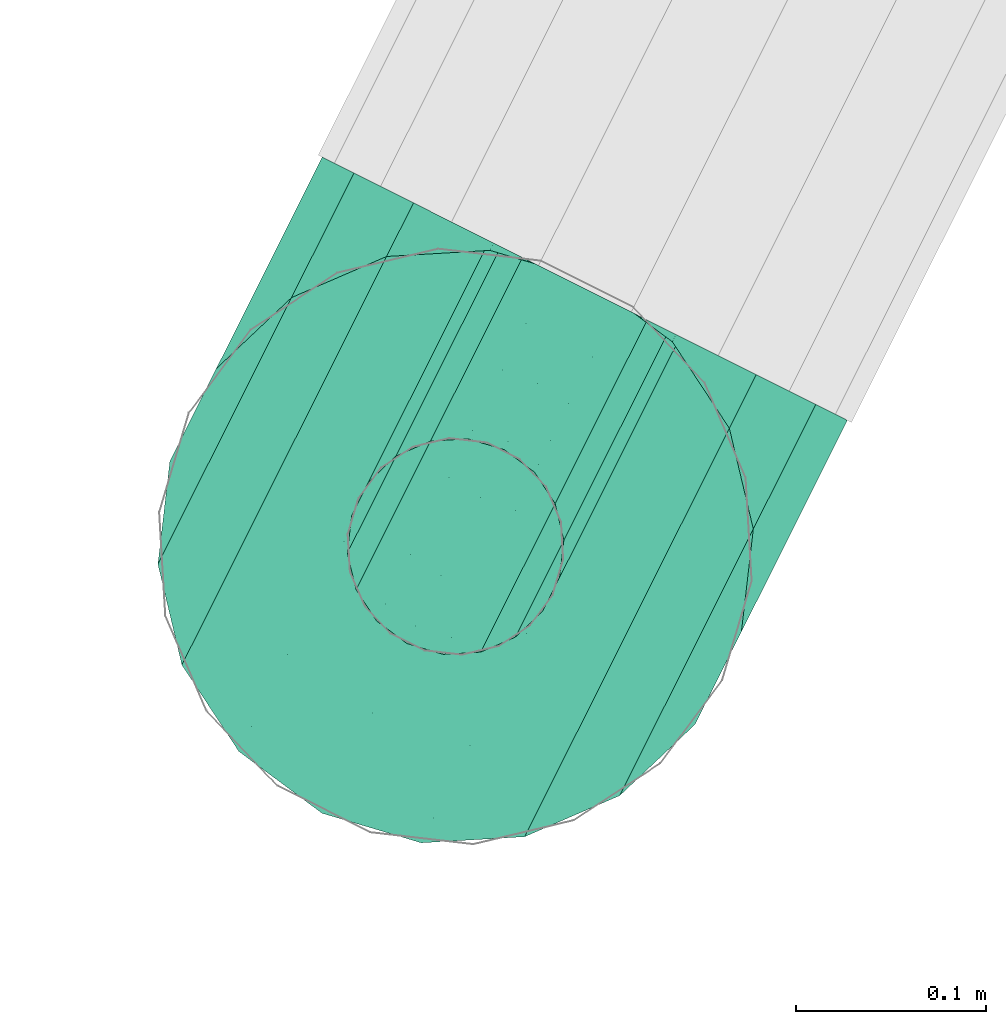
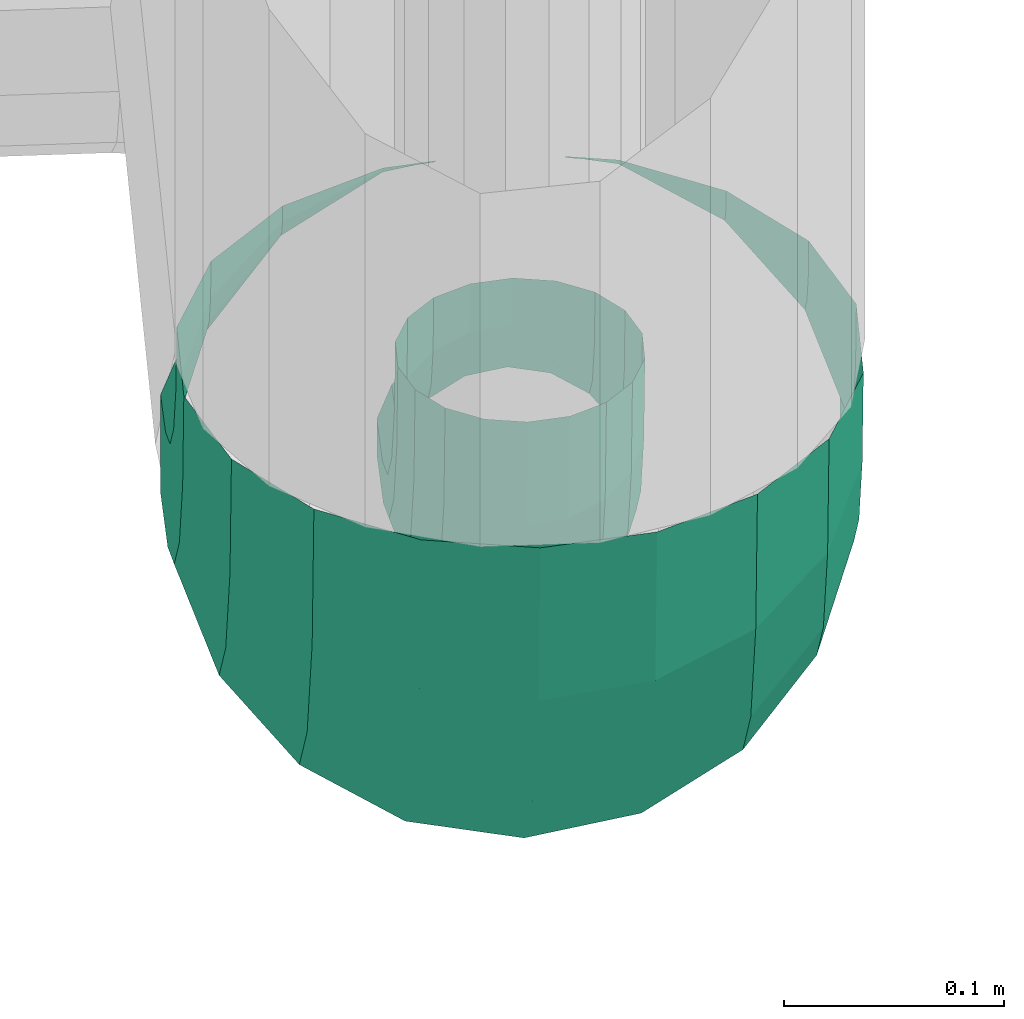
# One storey, part 35 of 206: 1 flow segment.
"""IFC2X3 building model written with IfcOpenShell, lengths in metres."""

import ifcopenshell
import ifcopenshell.guid

model = None  # the IFC model being written
_history = None  # IfcOwnerHistory: only IFC2X3 demands one
_inside = {}  # id of a spatial element -> (the spatial element, [elements in it])
_under = {}  # id of a project, library or spatial element -> (it, [spatial elements below it])
_declared = {}  # id of a project -> (the project, [libraries it declares])
_typed = {}  # id of a type object -> (the type object, [elements of that type])
_made_of = {}  # id of a material, layer set ... -> (it, [elements and type objects made of it])


def new_model(schema):
    """Start an empty IFC model of exactly this schema.

    Asked for "IFC4X3", IfcOpenShell would pick the latest addendum, in which some entities
    have other attributes; the version numbers below select the first issue.
    IFC2X3 requires an IfcOwnerHistory on every rooted entity: one is made here for all.
    """
    global model, _history
    if schema == "IFC4X3":
        model = ifcopenshell.file(schema_version=(4, 3, 0, 0))
    else:
        model = ifcopenshell.file(schema=schema)
    _inside.clear()
    _under.clear()
    _declared.clear()
    _typed.clear()
    _made_of.clear()
    _history = None
    if model.schema == "IFC2X3":
        org = make("IfcOrganization", Name="unknown")
        user = make(
            "IfcPersonAndOrganization",
            ThePerson=make("IfcPerson", FamilyName="unknown"),
            TheOrganization=org,
        )
        app = make(
            "IfcApplication",
            ApplicationDeveloper=org,
            Version="unknown",
            ApplicationFullName="unknown",
            ApplicationIdentifier="unknown",
        )
        _history = make(
            "IfcOwnerHistory",
            OwningUser=user,
            OwningApplication=app,
            ChangeAction="ADDED",
            CreationDate=0,
        )
    return model


def make(cls, **values):
    """One entity of the class cls with the attributes given. An attribute that is None is left unset."""
    return model.create_entity(
        cls, **{name: value for name, value in values.items() if value is not None}
    )


def rooted(cls, **values):
    """An entity with a GlobalId (a new one), such as an element, a storey or a relation."""
    return make(cls, GlobalId=ifcopenshell.guid.new(), OwnerHistory=_history, **values)


def si_unit(unit_type, name, prefix=None):
    """IfcSIUnit, for example si_unit("LENGTHUNIT", "METRE", prefix="MILLI")."""
    return make("IfcSIUnit", UnitType=unit_type, Prefix=prefix, Name=name)


def derived_unit(unit_type, elements):
    """IfcDerivedUnit: a product of units, each with its exponent."""
    return make(
        "IfcDerivedUnit",
        Elements=[
            make("IfcDerivedUnitElement", Unit=unit, Exponent=power)
            for unit, power in elements
        ],
        UnitType=unit_type,
    )


def assignment(units):
    """IfcUnitAssignment: the units of a project."""
    return None if units is None else make("IfcUnitAssignment", Units=units)


def point(xyz):
    """IfcCartesianPoint."""
    return None if xyz is None else make("IfcCartesianPoint", Coordinates=xyz)


def direction(xyz):
    """IfcDirection."""
    return None if xyz is None else make("IfcDirection", DirectionRatios=xyz)


def frame(location, z_axis=None, x_axis=None):
    """IfcAxis2Placement3D, a coordinate frame: its origin and axes. An axis left out is left unset."""
    return make(
        "IfcAxis2Placement3D",
        Location=point(location),
        Axis=direction(z_axis),
        RefDirection=direction(x_axis),
    )


def origin():
    """The frame at (0, 0, 0) with its axes left unset."""
    return frame((0.0, 0.0, 0.0))


def place(relative_to, where):
    """IfcLocalPlacement: puts the frame where relative to a parent placement (None: the world)."""
    return make(
        "IfcLocalPlacement", PlacementRelTo=relative_to, RelativePlacement=where
    )


def context(
    kind, dimensions, precision=None, world=None, true_north=None, identifier=None
):
    """IfcGeometricRepresentationContext, for example the 3D "Model" context."""
    return make(
        "IfcGeometricRepresentationContext",
        ContextIdentifier=identifier,
        ContextType=kind,
        CoordinateSpaceDimension=dimensions,
        Precision=precision,
        WorldCoordinateSystem=world,
        TrueNorth=true_north,
    )


def subcontext(parent, identifier, kind, view, scale=None):
    """IfcGeometricRepresentationSubContext, for example "Body" below "Model"."""
    return make(
        "IfcGeometricRepresentationSubContext",
        ContextIdentifier=identifier,
        ContextType=kind,
        ParentContext=parent,
        TargetScale=scale,
        TargetView=view,
    )


def project(units=None, contexts=None):
    """IfcProject with its units and contexts."""
    return rooted(
        "IfcProject",
        Name="project",
        RepresentationContexts=contexts,
        UnitsInContext=assignment(units),
    )


def spatial(cls, under=None, at=None, **own):
    """A site, building, storey or space (cls), placed at a placement, below another one or the project."""
    s = rooted(cls, ObjectPlacement=at, **own)
    if under is not None:
        _under.setdefault(under.id(), (under, []))[1].append(s)
    return s


def faces_of(points, faces, orient=None, outer=None):
    """IfcFace entities. A face is a list of loops; a loop is a list of indices into points, from 0.

    orient and outer hold one flag for each loop. By default every Orientation is true, the
    first loop of a face is its IfcFaceOuterBound and the others are IfcFaceBound.
    """
    made = []
    for i, loops in enumerate(faces):
        bounds = []
        for j, loop in enumerate(loops):
            is_outer = j == 0 if outer is None else outer[i][j]
            bounds.append(
                make(
                    "IfcFaceOuterBound" if is_outer else "IfcFaceBound",
                    Bound=make("IfcPolyLoop", Polygon=[points[k] for k in loop]),
                    Orientation=True if orient is None else orient[i][j],
                )
            )
        made.append(make("IfcFace", Bounds=bounds))
    return made


def face_set(faces, orient=None, outer=None):
    """The faces of one IfcConnectedFaceSet. surface_model builds it on its shared points."""
    return ("IfcConnectedFaceSet", faces, orient, outer)


def surface_model(cls, points, shells):
    """IfcFaceBasedSurfaceModel or IfcShellBasedSurfaceModel (cls): surfaces that need not close."""
    shared = [point(p) for p in points]
    made = [make(c, CfsFaces=faces_of(shared, fs, o, b)) for c, fs, o, b in shells]
    if cls == "IfcFaceBasedSurfaceModel":
        return make(cls, FbsmFaces=made)
    return make(cls, SbsmBoundary=made)


def shape(context_of_items, identifier, shape_type, items):
    """IfcShapeRepresentation: the items that make up one representation, for example the "Body"."""
    return make(
        "IfcShapeRepresentation",
        ContextOfItems=context_of_items,
        RepresentationIdentifier=identifier,
        RepresentationType=shape_type,
        Items=items,
    )


def source(mapping_origin, context_of_items, identifier, shape_type, items):
    """IfcRepresentationMap: a shape defined once, which mapped items show again and again."""
    return make(
        "IfcRepresentationMap",
        MappingOrigin=mapping_origin,
        MappedRepresentation=shape(context_of_items, identifier, shape_type, items),
    )


def transform(
    local_origin,
    x_axis=None,
    y_axis=None,
    z_axis=None,
    scale=None,
    scale2=None,
    scale3=None,
    uniform=True,
):
    """IfcCartesianTransformationOperator3D, or its non-uniform kind. x_axis, y_axis, z_axis: its Axis1, 2, 3."""
    if uniform:
        return make(
            "IfcCartesianTransformationOperator3D",
            Axis1=direction(x_axis),
            Axis2=direction(y_axis),
            LocalOrigin=point(local_origin),
            Scale=scale,
            Axis3=direction(z_axis),
        )
    return make(
        "IfcCartesianTransformationOperator3DnonUniform",
        Axis1=direction(x_axis),
        Axis2=direction(y_axis),
        LocalOrigin=point(local_origin),
        Scale=scale,
        Axis3=direction(z_axis),
        Scale2=scale2,
        Scale3=scale3,
    )


def mapped(mapping_source, mapping_target):
    """IfcMappedItem: shows the shape of a source again, moved by a transform."""
    return make(
        "IfcMappedItem", MappingSource=mapping_source, MappingTarget=mapping_target
    )


def material(Name=None, Category=None):
    """IfcMaterial."""
    return make("IfcMaterial", Name=Name, Category=Category)


def made_of(thing, what):
    """Note that an element or type object is made of a material, layer set ...; save() writes the relation."""
    if what is not None:
        _made_of.setdefault(what.id(), (what, []))[1].append(thing)
    return thing


def type_object(cls, material=None, **own):
    """A type object (cls), such as IfcWallType, which elements share."""
    return made_of(rooted(cls, **own), material)


def type_shapes(of_type, sources):
    """Give a type object the sources (RepresentationMaps) that its elements show as mapped items."""
    of_type.RepresentationMaps = sources


def element(
    cls,
    number,
    at=None,
    inside=None,
    cuts=None,
    type_object=None,
    material=None,
    context=None,
    identifier="Body",
    shape_type=None,
    held_by="IfcProductDefinitionShape",
    body=None,
    shapes=None,
    **own,
):
    """One element of the class cls, such as IfcWall. Its Tag is "e" and its number.

    at: its placement. inside: the storey or other place that contains it. cuts: it is an
    opening in that element (IfcRelVoidsElement). A single representation is given by context,
    identifier, shape_type and body (its items); several are given by shapes. held_by: the class
    of the entity that holds the representations. save() writes the other relations.
    """
    e = rooted(cls, Tag="e%d" % number, ObjectPlacement=at, **own)
    if body is not None:
        shapes = [shape(context, identifier, shape_type, body)]
    if shapes is not None:
        e.Representation = make(held_by, Representations=shapes)
    if inside is not None:
        _inside.setdefault(inside.id(), (inside, []))[1].append(e)
    if cuts is not None:
        rooted(
            "IfcRelVoidsElement", RelatingBuildingElement=cuts, RelatedOpeningElement=e
        )
    if type_object is not None:
        _typed.setdefault(type_object.id(), (type_object, []))[1].append(e)
    return made_of(e, material)


def aggregate(whole, parts):
    """IfcRelAggregates: a whole, such as a stair, and the parts it consists of."""
    return rooted("IfcRelAggregates", RelatingObject=whole, RelatedObjects=parts)


def save(model, path):
    """Write the relations noted so far, then the file.

    IfcRelAggregates (storeys below a building ...), IfcRelContainedInSpatialStructure (elements
    in a storey), IfcRelDefinesByType, IfcRelAssociatesMaterial and IfcRelDeclares: one each for
    every whole, place, type object, material and project.
    """
    for whole, parts in _under.values():
        aggregate(whole, parts)
    for where, things in _inside.values():
        rooted(
            "IfcRelContainedInSpatialStructure",
            RelatedElements=things,
            RelatingStructure=where,
        )
    for kind, things in _typed.values():
        rooted("IfcRelDefinesByType", RelatedObjects=things, RelatingType=kind)
    for what, things in _made_of.values():
        rooted("IfcRelAssociatesMaterial", RelatedObjects=things, RelatingMaterial=what)
    for by, libraries in _declared.values():
        rooted("IfcRelDeclares", RelatingContext=by, RelatedDefinitions=libraries)
    model.write(path)


model = new_model("IFC2X3")

# Units and contexts
model_context = context("Model", 3, precision=5.2338327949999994e-05, world=origin(), true_north=direction((0.0, 1.0)))
body_context = subcontext(model_context, "Body", "Model", "MODEL_VIEW")
ifc_project = project(units=[si_unit("LENGTHUNIT", "METRE"), si_unit("AREAUNIT", "SQUARE_METRE"), si_unit("VOLUMEUNIT", "CUBIC_METRE"), si_unit("MASSUNIT", "GRAM", prefix="KILO"), si_unit("PLANEANGLEUNIT", "RADIAN"), derived_unit("THERMALTRANSMITTANCEUNIT", [(si_unit("MASSUNIT", "GRAM", prefix="KILO"), 1), (si_unit("THERMODYNAMICTEMPERATUREUNIT", "KELVIN"), -1), (si_unit("TIMEUNIT", "SECOND"), -3)])], contexts=[model_context])

# Site, building, storey
site_placement = place(None, frame((0.0, 0.0, 0.0), z_axis=(0.0, 0.0, 1.0), x_axis=(0.8939966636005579, -0.4480736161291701, 0.0)))
site = spatial("IfcSite", under=ifc_project, at=site_placement, Name="Default", CompositionType="ELEMENT")
building_placement = place(site_placement, origin())
building = spatial("IfcBuilding", under=site, at=building_placement, CompositionType="ELEMENT")
storey_placement = place(building_placement, origin())
storey = spatial("IfcBuildingStorey", under=building, at=storey_placement, Name="Erdgeschoss", CompositionType="ELEMENT", Elevation=0.0)

# Flow segment
ifc_material = material(Name="IfcSurfaceStyle #1741")
distribution_element_type = type_object("IfcDistributionElementType", Name="Rohrbogen 292612:Rohrbogen 292612", material=ifc_material)
shared_shape = source(origin(), body_context, "Body", "SurfaceModel", [
    surface_model("IfcFaceBasedSurfaceModel", [(17.62623225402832, 7.3090056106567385, 2.4051674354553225), (17.62623225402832, 7.2987690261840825, 2.4697983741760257), (17.606685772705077, 7.312283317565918, 2.4062324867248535), (17.606685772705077, 7.302215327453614, 2.4697983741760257), (17.62623225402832, 7.338713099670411, 2.3468631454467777), (17.606685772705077, 7.3415013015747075, 2.3488890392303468), (17.62623225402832, 7.384983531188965, 2.300592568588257), (17.606685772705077, 7.3870095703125, 2.303380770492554), (17.62623225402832, 7.443288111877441, 2.270884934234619), (17.606685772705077, 7.444353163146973, 2.274162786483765), (17.62623225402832, 7.507919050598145, 2.260648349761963), (17.606685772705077, 7.507919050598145, 2.264094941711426), (17.589497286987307, 7.321721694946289, 2.409299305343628), (17.589497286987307, 7.312139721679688, 2.4697983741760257), (17.589497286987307, 7.349529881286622, 2.354722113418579), (17.589497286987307, 7.392842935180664, 2.3114094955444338), (17.589497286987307, 7.447419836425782, 2.283601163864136), (17.589497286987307, 7.507919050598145, 2.2740188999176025), (17.576738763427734, 7.336181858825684, 2.4139977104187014), (17.576738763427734, 7.3273440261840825, 2.4697983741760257), (17.576738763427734, 7.36183087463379, 2.36365906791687), (17.576738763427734, 7.401779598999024, 2.32371019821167), (17.576738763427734, 7.45211838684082, 2.2980613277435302), (17.576738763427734, 7.507919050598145, 2.289223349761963), (17.569950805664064, 7.345995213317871, 2.4697983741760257), (17.569950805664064, 7.353920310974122, 2.4197611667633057), (17.569950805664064, 7.376919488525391, 2.3746219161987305), (17.569950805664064, 7.412742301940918, 2.338799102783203), (17.569950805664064, 7.457881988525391, 2.3157994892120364), (17.569950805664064, 7.507919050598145, 2.3078743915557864), (17.569950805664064, 7.372796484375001, 2.425894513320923), (17.569950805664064, 7.365842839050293, 2.4697983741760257), (17.569950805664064, 7.392977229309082, 2.386288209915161), (17.569950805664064, 7.424409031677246, 2.354856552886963), (17.569950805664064, 7.464015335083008, 2.3346760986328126), (17.569950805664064, 7.507919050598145, 2.327722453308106), (17.576738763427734, 7.390534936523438, 2.4316579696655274), (17.576738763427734, 7.384494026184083, 2.4697983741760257), (17.576738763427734, 7.408065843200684, 2.3972510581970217), (17.576738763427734, 7.435371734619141, 2.3699454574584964), (17.576738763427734, 7.4697783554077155, 2.3524142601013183), (17.576738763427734, 7.507919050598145, 2.346373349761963), (17.589497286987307, 7.404995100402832, 2.4363563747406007), (17.589497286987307, 7.399698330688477, 2.4697983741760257), (17.589497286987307, 7.420366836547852, 2.4061880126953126), (17.589497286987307, 7.4443083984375, 2.3822461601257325), (17.589497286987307, 7.474476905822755, 2.3668745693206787), (17.589497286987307, 7.507919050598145, 2.3615777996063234), (17.606685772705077, 7.414433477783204, 2.4394231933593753), (17.606685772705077, 7.409622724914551, 2.4697983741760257), (17.606685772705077, 7.428395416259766, 2.412021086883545), (17.606685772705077, 7.450141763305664, 2.3902748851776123), (17.606685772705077, 7.477543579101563, 2.376312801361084), (17.606685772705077, 7.507919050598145, 2.371501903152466), (17.62623225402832, 7.413069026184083, 2.4697983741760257), (17.62623225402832, 7.417711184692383, 2.4404882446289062), (17.62623225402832, 7.431183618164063, 2.4140469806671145), (17.62623225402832, 7.4521678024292, 2.3930630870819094), (17.62623225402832, 7.478608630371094, 2.37959065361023), (17.62623225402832, 7.507919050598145, 2.3749483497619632), (17.645778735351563, 7.414433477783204, 2.4394231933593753), (17.645778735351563, 7.409622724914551, 2.4697983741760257), (17.645778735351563, 7.428395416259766, 2.412021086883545), (17.645778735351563, 7.450141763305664, 2.3902748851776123), (17.645778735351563, 7.477543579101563, 2.376312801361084), (17.645778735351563, 7.507919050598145, 2.371501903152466), (17.662967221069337, 7.404995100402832, 2.4363563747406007), (17.662967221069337, 7.399698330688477, 2.4697983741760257), (17.662967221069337, 7.420366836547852, 2.4061880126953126), (17.662967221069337, 7.4443083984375, 2.3822461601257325), (17.662967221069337, 7.474476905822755, 2.3668745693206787), (17.662967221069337, 7.507919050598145, 2.3615777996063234), (17.675725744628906, 7.384494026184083, 2.4697983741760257), (17.675725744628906, 7.390534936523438, 2.4316579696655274), (17.675725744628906, 7.408065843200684, 2.3972510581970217), (17.675725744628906, 7.435371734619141, 2.3699454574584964), (17.675725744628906, 7.4697783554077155, 2.3524142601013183), (17.675725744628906, 7.507919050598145, 2.346373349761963), (17.68251370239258, 7.365842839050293, 2.4697983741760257), (17.68251370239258, 7.372796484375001, 2.425894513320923), (17.68251370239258, 7.392977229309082, 2.386288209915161), (17.68251370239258, 7.424409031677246, 2.354856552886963), (17.68251370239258, 7.464015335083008, 2.3346760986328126), (17.68251370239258, 7.507919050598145, 2.327722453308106), (17.68251370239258, 7.345995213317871, 2.4697983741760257), (17.68251370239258, 7.353920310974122, 2.4197611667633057), (17.68251370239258, 7.376919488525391, 2.3746219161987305), (17.68251370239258, 7.412742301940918, 2.338799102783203), (17.68251370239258, 7.457881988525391, 2.3157994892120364), (17.68251370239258, 7.507919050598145, 2.3078743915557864), (17.675725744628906, 7.336181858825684, 2.4139977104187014), (17.675725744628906, 7.3273440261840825, 2.4697983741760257), (17.675725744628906, 7.36183087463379, 2.36365906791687), (17.675725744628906, 7.401779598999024, 2.32371019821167), (17.675725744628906, 7.45211838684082, 2.2980613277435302), (17.675725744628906, 7.507919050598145, 2.289223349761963), (17.662967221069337, 7.321721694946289, 2.409299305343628), (17.662967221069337, 7.312139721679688, 2.4697983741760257), (17.662967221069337, 7.349529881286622, 2.354722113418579), (17.662967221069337, 7.392842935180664, 2.3114094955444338), (17.662967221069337, 7.447419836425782, 2.283601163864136), (17.662967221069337, 7.507919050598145, 2.2740188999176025), (17.645778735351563, 7.312283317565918, 2.4062324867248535), (17.645778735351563, 7.302215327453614, 2.4697983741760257), (17.645778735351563, 7.3415013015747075, 2.3488890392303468), (17.645778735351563, 7.3870095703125, 2.303380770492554), (17.62623225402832, 7.213899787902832, 2.374265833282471), (17.62623225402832, 7.198769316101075, 2.4697983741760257), (17.572484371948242, 7.208246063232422, 2.4697983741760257), (17.572484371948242, 7.222913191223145, 2.37719443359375), (17.62623225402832, 7.257811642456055, 2.288084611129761), (17.572484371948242, 7.2654786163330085, 2.293655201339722), (17.62623225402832, 7.326205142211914, 2.21969082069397), (17.572484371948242, 7.3317757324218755, 2.2273580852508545), (17.62623225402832, 7.41238650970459, 2.175779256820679), (17.572484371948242, 7.415314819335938, 2.1847928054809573), (17.62623225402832, 7.507919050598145, 2.1606483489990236), (17.572484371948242, 7.507919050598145, 2.1701256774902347), (17.52521865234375, 7.24886683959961, 2.3856272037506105), (17.52521865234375, 7.2355350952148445, 2.4697983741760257), (17.52521865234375, 7.287555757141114, 2.309695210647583), (17.52521865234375, 7.347816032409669, 2.24943522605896), (17.52521865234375, 7.423748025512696, 2.210745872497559), (17.52521865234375, 7.507919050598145, 2.1974145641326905), (17.490137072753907, 7.288628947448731, 2.3985467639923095), (17.490137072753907, 7.277344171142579, 2.4697983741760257), (17.490137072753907, 7.32137985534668, 2.3342698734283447), (17.490137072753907, 7.37239069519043, 2.2832593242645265), (17.490137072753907, 7.436667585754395, 2.250508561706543), (17.490137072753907, 7.507919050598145, 2.2392233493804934), (17.471469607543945, 7.3374050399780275, 2.414395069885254), (17.471469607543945, 7.328629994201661, 2.4697983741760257), (17.471469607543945, 7.362871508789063, 2.3644151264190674), (17.471469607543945, 7.402535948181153, 2.324750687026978), (17.471469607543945, 7.4525154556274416, 2.29928465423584), (17.471469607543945, 7.507919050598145, 2.2905096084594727), (17.471469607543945, 7.389311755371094, 2.431260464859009), (17.471469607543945, 7.383208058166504, 2.4697983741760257), (17.471469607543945, 7.407025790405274, 2.3964949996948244), (17.471469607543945, 7.434615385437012, 2.3689049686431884), (17.471469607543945, 7.469381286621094, 2.351191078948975), (17.471469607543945, 7.507919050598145, 2.345087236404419), (17.490137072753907, 7.438087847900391, 2.4471087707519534), (17.490137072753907, 7.4344938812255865, 2.4697983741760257), (17.490137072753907, 7.448516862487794, 2.426640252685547), (17.490137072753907, 7.464760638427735, 2.41039633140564), (17.490137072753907, 7.485229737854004, 2.399967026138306), (17.490137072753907, 7.507919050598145, 2.3963733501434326), (17.52521865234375, 7.476302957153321, 2.4697983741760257), (17.52521865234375, 7.477850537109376, 2.460028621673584), (17.52521865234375, 7.48234096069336, 2.4512149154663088), (17.52521865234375, 7.489335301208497, 2.444220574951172), (17.52521865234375, 7.498149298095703, 2.4397295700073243), (17.52521865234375, 7.507919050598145, 2.4381822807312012), (17.572484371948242, 7.503591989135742, 2.4697983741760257), (17.572484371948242, 7.503803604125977, 2.4684612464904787), (17.572484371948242, 7.504418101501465, 2.46725492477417), (17.572484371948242, 7.505375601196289, 2.466297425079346), (17.572484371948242, 7.506581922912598, 2.4656829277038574), (17.572484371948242, 7.507919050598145, 2.4654710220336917), (17.597027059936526, 7.507919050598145, 2.4697983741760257), (17.59635849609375, 7.507919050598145, 2.469055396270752), (17.655438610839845, 7.507919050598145, 2.4697983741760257), (17.65610601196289, 7.507919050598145, 2.469055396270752), (17.679981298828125, 7.503803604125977, 2.4684612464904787), (17.679981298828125, 7.503591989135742, 2.4697983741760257), (17.679981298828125, 7.504418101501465, 2.46725492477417), (17.679981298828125, 7.505375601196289, 2.466297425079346), (17.679981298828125, 7.506581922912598, 2.4656829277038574), (17.679981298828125, 7.507919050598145, 2.4654710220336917), (17.727247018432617, 7.476302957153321, 2.4697983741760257), (17.727247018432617, 7.477850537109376, 2.460028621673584), (17.727247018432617, 7.48234096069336, 2.4512149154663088), (17.727247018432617, 7.489335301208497, 2.444220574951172), (17.727247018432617, 7.498149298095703, 2.4397295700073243), (17.727247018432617, 7.507919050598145, 2.4381822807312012), (17.76232859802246, 7.4344938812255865, 2.4697983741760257), (17.76232859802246, 7.438087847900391, 2.4471087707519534), (17.76232859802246, 7.448516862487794, 2.426640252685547), (17.76232859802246, 7.464760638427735, 2.41039633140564), (17.76232859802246, 7.485229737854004, 2.399967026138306), (17.76232859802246, 7.507919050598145, 2.3963733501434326), (17.780994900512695, 7.383208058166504, 2.4697983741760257), (17.780994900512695, 7.389311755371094, 2.431260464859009), (17.780994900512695, 7.407025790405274, 2.3964949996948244), (17.780994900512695, 7.434615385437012, 2.3689049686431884), (17.780994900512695, 7.469381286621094, 2.351191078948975), (17.780994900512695, 7.507919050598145, 2.345087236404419), (17.780994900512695, 7.328629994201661, 2.4697983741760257), (17.780994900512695, 7.3374050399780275, 2.414395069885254), (17.780994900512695, 7.362871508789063, 2.3644151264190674), (17.780994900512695, 7.402535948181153, 2.324750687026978), (17.780994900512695, 7.4525154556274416, 2.29928465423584), (17.780994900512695, 7.507919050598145, 2.2905096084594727), (17.76232859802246, 7.277344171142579, 2.4697983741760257), (17.76232859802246, 7.288628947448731, 2.3985467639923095), (17.76232859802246, 7.32137985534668, 2.3342698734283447), (17.76232859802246, 7.37239069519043, 2.2832593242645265), (17.76232859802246, 7.436667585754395, 2.250508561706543), (17.76232859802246, 7.507919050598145, 2.2392233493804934), (17.727247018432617, 7.2355350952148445, 2.4697983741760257), (17.727247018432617, 7.24886683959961, 2.3856272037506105), (17.727247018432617, 7.287555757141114, 2.309695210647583), (17.727247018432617, 7.347816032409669, 2.24943522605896), (17.727247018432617, 7.423748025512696, 2.210745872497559), (17.727247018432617, 7.507919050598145, 2.1974145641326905), (17.679981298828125, 7.208246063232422, 2.4697983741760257), (17.679981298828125, 7.222913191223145, 2.37719443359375), (17.679981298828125, 7.2654786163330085, 2.293655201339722), (17.679981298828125, 7.3317757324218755, 2.2273580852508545), (17.679981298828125, 7.415314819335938, 2.1847928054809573), (17.679981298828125, 7.507919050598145, 2.1701256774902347), (17.645778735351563, 7.444353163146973, 2.274162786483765), (17.645778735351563, 7.507919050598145, 2.264094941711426)], [face_set([[[0, 1, 2]], [[3, 2, 1]], [[4, 0, 5]], [[2, 5, 0]], [[6, 4, 7]], [[5, 7, 4]], [[8, 6, 7]], [[7, 9, 8]], [[10, 8, 9]], [[9, 11, 10]], [[2, 3, 12]], [[13, 12, 3]], [[5, 2, 14]], [[12, 14, 2]], [[7, 5, 15]], [[14, 15, 5]], [[9, 7, 16]], [[15, 16, 7]], [[11, 9, 17]], [[16, 17, 9]], [[12, 13, 18]], [[19, 18, 13]], [[14, 12, 20]], [[18, 20, 12]], [[15, 14, 21]], [[20, 21, 14]], [[16, 15, 21]], [[21, 22, 16]], [[17, 16, 22]], [[22, 23, 17]], [[18, 19, 24]], [[24, 25, 18]], [[20, 18, 25]], [[25, 26, 20]], [[21, 20, 26]], [[26, 27, 21]], [[22, 21, 27]], [[27, 28, 22]], [[23, 22, 28]], [[28, 29, 23]], [[25, 24, 30]], [[31, 30, 24]], [[26, 25, 32]], [[30, 32, 25]], [[27, 26, 33]], [[32, 33, 26]], [[28, 27, 33]], [[33, 34, 28]], [[29, 28, 35]], [[34, 35, 28]], [[30, 31, 36]], [[37, 36, 31]], [[32, 30, 38]], [[36, 38, 30]], [[33, 32, 38]], [[38, 39, 33]], [[34, 33, 40]], [[39, 40, 33]], [[35, 34, 41]], [[40, 41, 34]], [[36, 37, 42]], [[43, 42, 37]], [[38, 36, 44]], [[42, 44, 36]], [[39, 38, 45]], [[44, 45, 38]], [[40, 39, 46]], [[45, 46, 39]], [[41, 40, 47]], [[46, 47, 40]], [[42, 43, 48]], [[49, 48, 43]], [[44, 42, 48]], [[48, 50, 44]], [[45, 44, 51]], [[50, 51, 44]], [[46, 45, 51]], [[51, 52, 46]], [[47, 46, 52]], [[52, 53, 47]], [[48, 49, 54]], [[54, 55, 48]], [[50, 48, 55]], [[55, 56, 50]], [[51, 50, 56]], [[56, 57, 51]], [[52, 51, 57]], [[57, 58, 52]], [[53, 52, 58]], [[58, 59, 53]], [[55, 54, 60]], [[61, 60, 54]], [[56, 55, 60]], [[60, 62, 56]], [[57, 56, 63]], [[62, 63, 56]], [[58, 57, 64]], [[63, 64, 57]], [[59, 58, 65]], [[64, 65, 58]], [[60, 61, 66]], [[67, 66, 61]], [[62, 60, 68]], [[66, 68, 60]], [[63, 62, 68]], [[68, 69, 63]], [[64, 63, 69]], [[69, 70, 64]], [[65, 64, 71]], [[70, 71, 64]], [[66, 67, 72]], [[72, 73, 66]], [[68, 66, 74]], [[73, 74, 66]], [[69, 68, 75]], [[74, 75, 68]], [[70, 69, 76]], [[75, 76, 69]], [[71, 70, 76]], [[76, 77, 71]], [[73, 72, 78]], [[78, 79, 73]], [[74, 73, 79]], [[79, 80, 74]], [[75, 74, 81]], [[80, 81, 74]], [[76, 75, 81]], [[81, 82, 76]], [[77, 76, 82]], [[82, 83, 77]], [[79, 78, 84]], [[84, 85, 79]], [[80, 79, 85]], [[85, 86, 80]], [[81, 80, 87]], [[86, 87, 80]], [[82, 81, 88]], [[87, 88, 81]], [[83, 82, 88]], [[88, 89, 83]], [[85, 84, 90]], [[91, 90, 84]], [[86, 85, 92]], [[90, 92, 85]], [[87, 86, 93]], [[92, 93, 86]], [[88, 87, 94]], [[93, 94, 87]], [[89, 88, 95]], [[94, 95, 88]], [[90, 91, 96]], [[97, 96, 91]], [[92, 90, 96]], [[96, 98, 92]], [[93, 92, 98]], [[98, 99, 93]], [[94, 93, 100]], [[99, 100, 93]], [[95, 94, 100]], [[100, 101, 95]], [[96, 97, 102]], [[103, 102, 97]], [[98, 96, 102]], [[102, 104, 98]], [[99, 98, 104]], [[104, 105, 99]], [[102, 103, 1]], [[1, 0, 102]], [[104, 102, 4]], [[0, 4, 102]], [[105, 104, 4]], [[4, 6, 105]], [[106, 107, 108]], [[108, 109, 106]], [[110, 106, 111]], [[109, 111, 106]], [[112, 110, 111]], [[111, 113, 112]], [[114, 112, 113]], [[113, 115, 114]], [[116, 114, 115]], [[115, 117, 116]], [[109, 108, 118]], [[119, 118, 108]], [[111, 109, 120]], [[118, 120, 109]], [[113, 111, 121]], [[120, 121, 111]], [[115, 113, 121]], [[121, 122, 115]], [[117, 115, 122]], [[122, 123, 117]], [[118, 119, 124]], [[125, 124, 119]], [[120, 118, 124]], [[124, 126, 120]], [[121, 120, 126]], [[126, 127, 121]], [[122, 121, 127]], [[127, 128, 122]], [[123, 122, 128]], [[128, 129, 123]], [[124, 125, 130]], [[131, 130, 125]], [[126, 124, 132]], [[130, 132, 124]], [[127, 126, 132]], [[132, 133, 127]], [[128, 127, 134]], [[133, 134, 127]], [[129, 128, 135]], [[134, 135, 128]], [[130, 131, 136]], [[137, 136, 131]], [[132, 130, 138]], [[136, 138, 130]], [[133, 132, 138]], [[138, 139, 133]], [[134, 133, 139]], [[139, 140, 134]], [[135, 134, 140]], [[140, 141, 135]], [[136, 137, 142]], [[143, 142, 137]], [[138, 136, 142]], [[142, 144, 138]], [[139, 138, 144]], [[144, 145, 139]], [[140, 139, 145]], [[145, 146, 140]], [[141, 140, 146]], [[146, 147, 141]], [[142, 143, 148]], [[148, 149, 142]], [[144, 142, 150]], [[149, 150, 142]], [[145, 144, 150]], [[150, 151, 145]], [[146, 145, 152]], [[151, 152, 145]], [[147, 146, 152]], [[152, 153, 147]], [[149, 148, 154]], [[154, 155, 149]], [[150, 149, 156]], [[155, 156, 149]], [[151, 150, 156]], [[156, 157, 151]], [[152, 151, 158]], [[157, 158, 151]], [[153, 152, 158]], [[158, 159, 153]], [[160, 155, 161]], [[160, 161, 154]], [[155, 154, 161]], [[156, 155, 160]], [[157, 156, 160]], [[158, 157, 160]], [[159, 158, 160]], [[162, 163, 164]], [[165, 164, 163]], [[163, 162, 165]], [[164, 166, 162]], [[162, 166, 167]], [[167, 168, 162]], [[168, 169, 162]], [[164, 165, 170]], [[170, 171, 164]], [[166, 164, 171]], [[171, 172, 166]], [[167, 166, 173]], [[172, 173, 166]], [[168, 167, 174]], [[173, 174, 167]], [[169, 168, 175]], [[174, 175, 168]], [[171, 170, 176]], [[176, 177, 171]], [[172, 171, 177]], [[177, 178, 172]], [[173, 172, 179]], [[178, 179, 172]], [[174, 173, 179]], [[179, 180, 174]], [[175, 174, 180]], [[180, 181, 175]], [[177, 176, 182]], [[182, 183, 177]], [[178, 177, 184]], [[183, 184, 177]], [[179, 178, 185]], [[184, 185, 178]], [[180, 179, 186]], [[185, 186, 179]], [[181, 180, 187]], [[186, 187, 180]], [[183, 182, 188]], [[188, 189, 183]], [[184, 183, 189]], [[189, 190, 184]], [[185, 184, 191]], [[190, 191, 184]], [[186, 185, 192]], [[191, 192, 185]], [[187, 186, 193]], [[192, 193, 186]], [[189, 188, 194]], [[194, 195, 189]], [[190, 189, 195]], [[195, 196, 190]], [[191, 190, 197]], [[196, 197, 190]], [[192, 191, 197]], [[197, 198, 192]], [[193, 192, 198]], [[198, 199, 193]], [[195, 194, 200]], [[200, 201, 195]], [[196, 195, 202]], [[201, 202, 195]], [[197, 196, 203]], [[202, 203, 196]], [[198, 197, 204]], [[203, 204, 197]], [[199, 198, 205]], [[204, 205, 198]], [[201, 200, 206]], [[206, 207, 201]], [[202, 201, 208]], [[207, 208, 201]], [[203, 202, 208]], [[208, 209, 203]], [[204, 203, 210]], [[209, 210, 203]], [[205, 204, 211]], [[210, 211, 204]], [[207, 206, 107]], [[107, 106, 207]], [[208, 207, 110]], [[106, 110, 207]], [[209, 208, 112]], [[110, 112, 208]], [[210, 209, 114]], [[112, 114, 209]], [[211, 210, 116]], [[114, 116, 210]], [[100, 99, 212]], [[105, 212, 99]], [[101, 100, 213]], [[212, 213, 100]], [[212, 105, 6]], [[6, 8, 212]], [[213, 212, 8]], [[8, 10, 213]]])]),
])
type_shapes(distribution_element_type, [shared_shape])
flow_segment_placement = place(storey_placement, origin())
element("IfcFlowSegment", 1, at=flow_segment_placement, inside=storey, type_object=distribution_element_type, material=ifc_material, Name="Rohrbogen", ObjectType="Rohrbogen", context=body_context, shape_type="MappedRepresentation", body=[
    mapped(shared_shape, transform((0.0, 0.0, 0.0), scale=1.0)),
])

save(model, "model.ifc")
